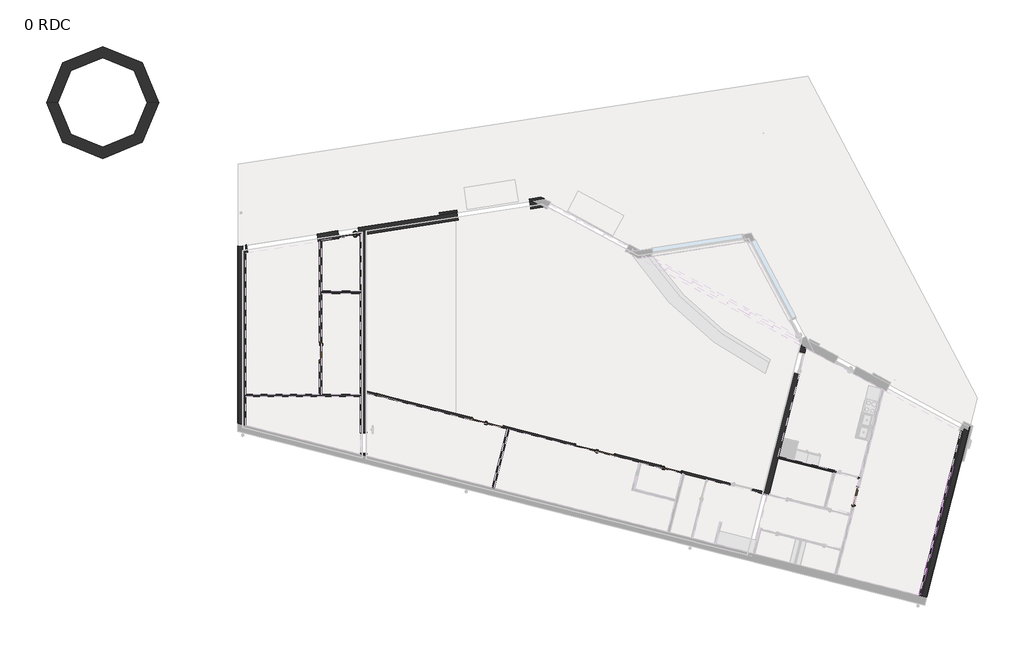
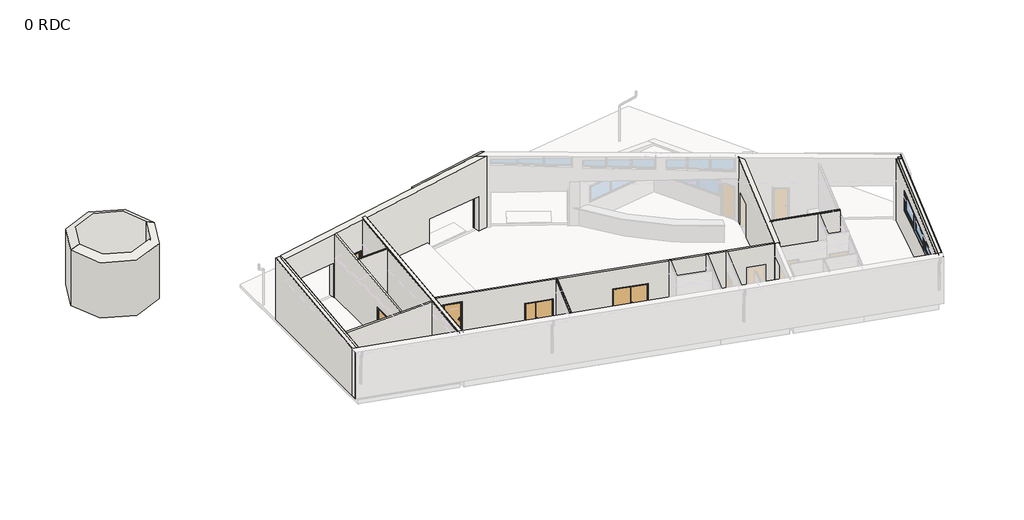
# One storey, part 2 of 4: 15 walls, 8 doors, 3 windows.
"""IFC4 building model written with IfcOpenShell, lengths in millimetres."""

from ifc_helpers import new_model, si_unit, frame, origin, place, context, project, spatial, polyline, circle_curve, outline, extrude, faceted_brep, transform, mapped, element, save
from ifc_brep_helpers import plane_surface, cylinder_surface, revolved_surface, advanced_brep
from components import door_be1b824a, door_0_90m_x_2_04m_119cc7aa, int_double_pp_1_80m_x_2_04m_d59a1f46, int_simple_pp_0_83m_x_2_04m_020da29c, int_simple_pp_0_93m_x_2_04m_e5c7a8a5, ouverture_en_rectangle_191bbca3, pp_1_43m_x_2_04m_4e16e3f7, window_c3426ef7, window_ba02bbd5, window_23208b70

model = new_model("IFC4")

# Units and contexts
model_context = context("Model", 3, world=origin())
ifc_project = project(units=[si_unit("LENGTHUNIT", "METRE", prefix="MILLI")], contexts=[model_context])

# Site, building, storey
site = spatial("IfcSite", under=ifc_project)
building = spatial("IfcBuilding", under=site)
storey = spatial("IfcBuildingStorey", under=building, Name="0 RDC", Elevation=870000.0)

# Doors
placement = place(None, origin())
door_shape = door_be1b824a(model_context)
element("IfcDoor", 1, ObjectType="Porte Ext vitrée : Menuiserie 3", at=placement, inside=storey, context=model_context, shape_type="MappedRepresentation", body=[
    mapped(door_shape, transform((24394.0480904, 10846.8569816, 870000.0), x_axis=(0.9883288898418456, 0.15233517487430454, 0.0), y_axis=(-0.15233517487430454, 0.9883288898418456, 0.0), z_axis=(0.0, 0.0, 1.0))),
])
door_0_90m_x_2_04m_shape = door_0_90m_x_2_04m_119cc7aa(model_context)
element("IfcDoor", 2, ObjectType="Coulissante - Encastrée : 0.90m x 2.04m", at=placement, inside=storey, context=model_context, shape_type="MappedRepresentation", body=[
    mapped(door_0_90m_x_2_04m_shape, transform((47095.9235148, -981.4644465, 869990.0), x_axis=(-0.24594559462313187, -0.9692836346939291, 0.0), y_axis=(0.9692836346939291, -0.24594559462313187, 0.0), z_axis=(0.0, 0.0, 1.0))),
])
int_double_pp_1_80m_x_2_04m_shape = int_double_pp_1_80m_x_2_04m_d59a1f46(model_context)
element("IfcDoor", 3, ObjectType="Int. Double : PP (1.80m x 2.04m)", at=placement, inside=storey, context=model_context, shape_type="MappedRepresentation", body=[
    mapped(int_double_pp_1_80m_x_2_04m_shape, transform((35455.3493143, 1112.8171004, 870000.0), x_axis=(0.9692836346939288, -0.245945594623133, 0.0), y_axis=(0.245945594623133, 0.9692836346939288, 0.0), z_axis=(0.0, 0.0, 1.0))),
])
int_simple_pp_0_83m_x_2_04m_shape = int_simple_pp_0_83m_x_2_04m_020da29c(model_context)
element("IfcDoor", 4, ObjectType="Int. Simple : PP (0.83m x 2.04m)", at=placement, inside=storey, context=model_context, shape_type="MappedRepresentation", body=[
    mapped(int_simple_pp_0_83m_x_2_04m_shape, transform((23135.6644129, 5510.8590745, 870000.0), x_axis=(0.0, -1.0, 0.0), y_axis=(1.0, 0.0, 0.0), z_axis=(0.0, 0.0, 1.0))),
])
int_simple_pp_0_93m_x_2_04m_shape = int_simple_pp_0_93m_x_2_04m_e5c7a8a5(model_context)
element("IfcDoor", 5, ObjectType="Int. Simple : PP (0.93m x 2.04m)", at=placement, inside=storey, context=model_context, shape_type="MappedRepresentation", body=[
    mapped(int_simple_pp_0_93m_x_2_04m_shape, transform((26076.1396291, 3492.6935582, 870750.0), x_axis=(-0.9692836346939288, 0.245945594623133, 0.0), y_axis=(-0.245945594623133, -0.9692836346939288, 0.0), z_axis=(0.0, 0.0, 1.0))),
])
element("IfcDoor", 6, ObjectType="Int. Simple : PP (0.93m x 2.04m)", at=placement, inside=storey, context=model_context, shape_type="MappedRepresentation", body=[
    mapped(int_simple_pp_0_93m_x_2_04m_shape, transform((38886.6133811, 242.1696954, 870000.0), x_axis=(0.9692836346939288, -0.245945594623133, 0.0), y_axis=(0.245945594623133, 0.9692836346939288, 0.0), z_axis=(0.0, 0.0, 1.0))),
])
ouverture_en_rectangle_shape = ouverture_en_rectangle_191bbca3(model_context)
element("IfcDoor", 7, ObjectType="Ouverture en rectangle : Ouverture Loge", at=placement, inside=storey, context=model_context, shape_type="MappedRepresentation", body=[
    mapped(ouverture_en_rectangle_shape, transform((25061.0091129, 1422.3210603, 870000.0), x_axis=(0.0, -1.0, 0.0), y_axis=(1.0, 0.0, 0.0), z_axis=(0.0, 0.0, 1.0))),
])
pp_1_43m_x_2_04m_shape = pp_1_43m_x_2_04m_4e16e3f7(model_context)
element("IfcDoor", 8, ObjectType="Int. Tierce : PP (1.43m x 2.04m)", at=placement, inside=storey, context=model_context, shape_type="MappedRepresentation", body=[
    mapped(pp_1_43m_x_2_04m_shape, transform((30597.8477849, 2345.3573593, 870000.0), x_axis=(-0.9692836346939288, 0.245945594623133, 0.0), y_axis=(-0.245945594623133, -0.9692836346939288, 0.0), z_axis=(0.0, 0.0, 1.0))),
])

# Walls
element("IfcWall", 9, ObjectType="Mur pierre 50 cm", at=placement, inside=storey, context=model_context, shape_type="AdvancedBrep", body=[
    advanced_brep(
    [(11362.7556969, 16699.0276173, 870000.0), (10862.7556969, 16699.0276173, 870000.0), (15885.4429928, 16699.0276173, 870000.0), (15385.4429928, 16699.0276173, 870000.0), (15385.4429928, 16699.0276173, 873725.0), (11362.7556969, 16699.0276173, 873725.0), (15885.4429928, 16699.0276173, 873500.0), (10862.7556969, 16699.0276173, 873500.0)],
    [
        (0, 1),
        (1, 2, circle_curve(frame((13374.0993449, 16699.0276173, 870000.0), z_axis=(0.0, 0.0, -1.0), x_axis=(1.0, 0.0, 0.0)), 2511.343648)),
        (2, 3),
        (3, 0, circle_curve(frame((13374.0993449, 16699.0276173, 870000.0), z_axis=(0.0, 0.0, 1.0), x_axis=(1.0, 0.0, 0.0)), 2011.343648)),
        (4, 5, circle_curve(frame((13374.0993449, 16699.0276173, 873725.0), z_axis=(0.0, 0.0, 1.0), x_axis=(1.0, 0.0, 0.0)), 2011.343648)),
        (5, 0),
        (3, 4),
        (6, 4),
        (2, 6),
        (7, 6, circle_curve(frame((13374.0993449, 16699.0276173, 873500.0), z_axis=(0.0, 0.0, -1.0), x_axis=(1.0, 0.0, 0.0)), 2511.343648)),
        (1, 7),
        (5, 7),
    ],
    [
        plane_surface(frame((15385.4429928, 16699.0276173, 870000.0), z_axis=(0.0, 0.0, -1.0), x_axis=(0.0, 1.0, 0.0))),
        revolved_surface(polyline([(15385.4429929, 16699.0276173, 870000.0), (15385.4429929, 16699.0276173, 873725.0)]), (13374.0993449, 16699.0276173, 870000.0), (0.0, 0.0, -1.0)),
        plane_surface(frame((15385.4429928, 16699.0276173, 872500.0), z_axis=(0.0, -1.0, 0.0), x_axis=(0.0, 0.0, -1.0))),
        cylinder_surface(frame((13374.0993449, 16699.0276173, 870000.0), z_axis=(0.0, 0.0, 1.0), x_axis=(1.0, 0.0, 0.0)), 2511.343648),
        plane_surface(frame((10862.7556969, 16699.0276173, 872500.0), z_axis=(0.0, -1.0, 0.0), x_axis=(0.0, 0.0, -1.0))),
        revolved_surface(polyline([(15385.442992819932, 16699.0276173, 873725.0), (15885.4429928, 16699.0276173, 873500.0)]), (13374.0993449, 16699.0276173, 874630.1046416), (0.0, 0.0, -1.0)),
    ],
    [
        (0, [[1, 2, 3, 4]]),
        (1, [[5, 6, -4, 7]]),
        (2, [[8, -7, -3, 9]]),
        (3, [[10, -9, -2, 11]]),
        (4, [[12, -11, -1, -6]]),
        (5, [[-5, -8, -10, -12]]),
    ],
),
])
element("IfcWall", 10, ObjectType="Mur pierre 50 cm", at=placement, inside=storey, context=model_context, shape_type="AdvancedBrep", body=[
    advanced_brep(
    [(15385.4429928, 16699.0276173, 870000.0), (15885.4429928, 16699.0276173, 870000.0), (10862.7556969, 16699.0276173, 870000.0), (11362.7556969, 16699.0276173, 870000.0), (11362.7556969, 16699.0276173, 873725.0), (15385.4429928, 16699.0276173, 873725.0), (10862.7556969, 16699.0276173, 873500.0), (15885.4429928, 16699.0276173, 873500.0)],
    [
        (0, 1),
        (1, 2, circle_curve(frame((13374.0993449, 16699.0276173, 870000.0), z_axis=(0.0, 0.0, -1.0), x_axis=(1.0, 0.0, 0.0)), 2511.343648)),
        (2, 3),
        (3, 0, circle_curve(frame((13374.0993449, 16699.0276173, 870000.0), z_axis=(0.0, 0.0, 1.0), x_axis=(1.0, 0.0, 0.0)), 2011.343648)),
        (4, 5, circle_curve(frame((13374.0993449, 16699.0276173, 873725.0), z_axis=(0.0, 0.0, 1.0), x_axis=(1.0, 0.0, 0.0)), 2011.343648)),
        (5, 0),
        (3, 4),
        (6, 4),
        (2, 6),
        (7, 6, circle_curve(frame((13374.0993449, 16699.0276173, 873500.0), z_axis=(0.0, 0.0, -1.0), x_axis=(1.0, 0.0, 0.0)), 2511.343648)),
        (1, 7),
        (5, 7),
    ],
    [
        plane_surface(frame((15385.4429928, 16699.0276173, 870000.0), z_axis=(0.0, 0.0, -1.0), x_axis=(0.0, 1.0, 0.0))),
        revolved_surface(polyline([(15385.4429929, 16699.0276173, 870000.0), (15385.4429929, 16699.0276173, 873725.0)]), (13374.0993449, 16699.0276173, 870000.0), (0.0, 0.0, -1.0)),
        plane_surface(frame((11362.7556969, 16699.0276173, 872500.0), z_axis=(0.0, 1.0, 0.0), x_axis=(0.0, 0.0, -1.0))),
        cylinder_surface(frame((13374.0993449, 16699.0276173, 870000.0), z_axis=(0.0, 0.0, 1.0), x_axis=(1.0, 0.0, 0.0)), 2511.343648),
        plane_surface(frame((15885.4429928, 16699.0276173, 872500.0), z_axis=(0.0, 1.0, 0.0), x_axis=(0.0, 0.0, -1.0))),
        revolved_surface(polyline([(11362.75569689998, 16699.0276173, 873725.0), (10862.7556969, 16699.0276173, 873500.0)]), (13374.0993449, 16699.0276173, 874630.1046416), (0.0, 0.0, -1.0)),
    ],
    [
        (0, [[1, 2, 3, 4]]),
        (1, [[5, 6, -4, 7]]),
        (2, [[8, -7, -3, 9]]),
        (3, [[10, -9, -2, 11]]),
        (4, [[12, -11, -1, -6]]),
        (5, [[-5, -8, -10, -12]]),
    ],
),
])
element("IfcWall", 11, ObjectType="Cloison de séparation", at=placement, inside=storey, context=model_context, shape_type="Brep", body=[
    faceted_brep([(23086.6644129, 3610.3210603, 873237.2007405), (23086.6644129, 10466.2544059, 874034.6420196), (23086.6644129, 10466.2544059, 870000.0), (23086.6644129, 5995.8590745, 870000.0), (23086.6644129, 5995.8590745, 872075.0), (23086.6644129, 5095.8590745, 872075.0), (23086.6644129, 5095.8590745, 870000.0), (23086.6644129, 3610.3210603, 870000.0), (23184.6644129, 10481.3595468, 874039.2912797), (23184.6644129, 8243.3256655, 873778.9765258), (23184.6644129, 8145.3256655, 873767.5777503), (23184.6644129, 3610.3210603, 873240.0930606), (23184.6644129, 3610.3210603, 870000.0), (23184.6644129, 5095.8590745, 870000.0), (23184.6644129, 5095.8590745, 872075.0), (23184.6644129, 5995.8590745, 872075.0), (23184.6644129, 5995.8590745, 870000.0), (23184.6644129, 8145.3256655, 870000.0), (23184.6644129, 8243.3256655, 870000.0), (23184.6644129, 10481.3595468, 870000.0)], [[[0, 1, 2, 3, 4, 5, 6, 7]], [[8, 9, 10, 11, 12, 13, 14, 15, 16, 17, 18, 19]], [[5, 14, 13, 6]], [[14, 5, 4, 15]], [[15, 4, 3, 16]], [[12, 7, 6, 13]], [[2, 19, 18, 17, 16, 3]], [[1, 0, 11, 10, 9, 8]], [[0, 7, 12, 11]], [[2, 1, 8, 19]]]),
])
element("IfcWall", 12, ObjectType="Cloison de séparation", at=placement, inside=storey, context=model_context, shape_type="Brep", body=[
    faceted_brep([(31529.6636013, 2084.1582778, 869990.0), (30852.5138613, -584.5220139, 869990.0), (30852.5138613, -584.5220139, 872978.4787867), (31529.6636013, 2084.1582778, 873308.8688021), (31576.1892158, 2072.3528893, 869990.0), (30899.0481554, -596.2931956, 869990.0), (30899.0481554, -596.2931956, 872978.4830216), (31576.1892158, 2072.3528893, 873308.8688021)], [[[0, 1, 2, 3]], [[1, 0, 4, 5]], [[3, 2, 6, 7]], [[5, 4, 7, 6]], [[7, 4, 0, 3]], [[1, 5, 6, 2]]]),
    faceted_brep([(30831.4745434, -565.7904995, 869990.0), (31505.4315104, 2090.3069177, 869990.0), (31529.6636013, 2084.1582778, 869990.0), (30855.7111549, -571.9213233, 869990.0), (30855.7111549, -571.9213233, 872980.0387871), (30831.4745434, -565.7904995, 872980.0365814), (31529.6636013, 2084.1582778, 873308.8688021), (31505.4315104, 2090.3069177, 873308.8688021)], [[[0, 1, 2, 3]], [[0, 3, 4, 5]], [[5, 4, 6, 7]], [[2, 1, 7, 6]], [[7, 1, 0, 5]], [[3, 2, 6, 4]]]),
    faceted_brep([(31576.1892158, 2072.3528893, 869990.0), (30902.245449, -583.6925049, 869990.0), (30902.245449, -583.6925049, 872980.043022), (31576.1892158, 2072.3528893, 873308.8688021), (31600.4213066, 2066.2042494, 869990.0), (30926.4820605, -589.8233287, 869990.0), (30926.4820605, -589.8233287, 872980.0452277), (31600.4213066, 2066.2042494, 873308.8688021)], [[[0, 1, 2, 3]], [[1, 0, 4, 5]], [[2, 1, 5, 6]], [[3, 2, 6, 7]], [[0, 3, 7, 4]], [[4, 7, 6, 5]]]),
])
element("IfcWall", 13, ObjectType="Cloison de séparation", at=placement, inside=storey, context=model_context, shape_type="Brep", body=[
    faceted_brep([(24925.5091129, 8145.3256655, 869990.0), (23184.6644129, 8145.3256655, 869990.0), (23184.6644129, 8170.3256655, 869990.0), (24925.5091129, 8170.3256655, 869990.0), (24925.5091129, 8170.3256655, 873821.8639714), (24925.5091129, 8145.3256655, 873818.9561205), (23184.6644129, 8145.3256655, 873767.5777503), (23184.6644129, 8170.3256655, 873770.4856012)], [[[0, 1, 2, 3]], [[0, 3, 4, 5]], [[2, 1, 6, 7]], [[6, 1, 0, 5]], [[4, 3, 2, 7]], [[6, 5, 4, 7]]]),
    faceted_brep([(23184.6644129, 8218.3256655, 870000.0), (24925.5091129, 8218.3256655, 870000.0), (24925.5091129, 8218.3256655, 873000.0), (24925.5091129, 8218.3256655, 873827.4470451), (23184.6644129, 8218.3256655, 873776.0686749), (23184.6644129, 8218.3256655, 873000.0), (23184.6644129, 8243.3256655, 870000.0), (24925.5091129, 8243.3256655, 870000.0), (24925.5091129, 8243.3256655, 873000.0), (24925.5091129, 8243.3256655, 873830.354896), (23184.6644129, 8243.3256655, 873778.9765258), (23184.6644129, 8243.3256655, 873000.0)], [[[0, 1, 2, 3, 4, 5]], [[1, 0, 6, 7]], [[2, 1, 7, 8, 9, 3]], [[0, 5, 4, 10, 11, 6]], [[6, 11, 10, 9, 8, 7]], [[4, 3, 9, 10]]]),
    faceted_brep([(23159.4085208, 8218.3256655, 873000.0), (23159.4085208, 8170.3256655, 873000.0), (23159.6644129, 8170.3256655, 873000.0), (23159.6644129, 8218.3256655, 873000.0), (23159.4085208, 8170.3256655, 870000.0), (24983.5091129, 8170.3256655, 870000.0), (24983.5091129, 8170.3256655, 873823.5757527), (23159.6644129, 8170.3256655, 873769.7477644), (23159.4085208, 8218.3256655, 870000.0), (24983.5091129, 8218.3256655, 870000.0), (23159.6644129, 8218.3256655, 873775.3308382), (24983.5091129, 8218.3256655, 873829.1588265)], [[[0, 1, 2, 3]], [[4, 5, 6, 7, 2, 1]], [[5, 4, 8, 9]], [[9, 8, 0, 3, 10, 11]], [[8, 4, 1, 0]], [[6, 5, 9, 11]], [[7, 6, 11, 10]], [[2, 7, 10, 3]]]),
])
element("IfcWall", 14, ObjectType="Cloison de séparation", at=placement, inside=storey, context=model_context, shape_type="SolidModel", body=[
    faceted_brep([(47292.0084418, -163.5628189, 873157.9788522), (47303.8138304, -117.0372045, 873157.9788522), (47279.5817395, -110.8885646, 873157.9788522), (47267.776351, -157.4141791, 873157.9788522), (47207.6807656, -142.1655522, 870000.0), (47292.0084418, -163.5628189, 870000.0), (47267.776351, -157.4141791, 873512.6288021), (43580.2623132, 778.2539785, 873512.6288021), (43580.2623132, 778.2539785, 869990.0), (46238.3971309, 103.7800424, 869990.0), (46238.3971309, 103.7800424, 872075.0), (47207.6807656, -142.1655522, 872075.0), (47219.4861541, -95.6399377, 870000.0), (47303.8138304, -117.0372045, 870000.0), (43592.0677018, 824.779593, 869990.0), (46250.2025195, 150.3056569, 869990.0), (46250.2025195, 150.3056569, 872075.0), (47219.4861541, -95.6399377, 872075.0), (43592.0677018, 824.779593, 873518.3888021), (47279.5817395, -110.8885646, 873518.3888021)], [[[0, 1, 2, 3]], [[4, 5, 0, 3, 6, 7, 8, 9, 10, 11]], [[5, 4, 12, 13]], [[14, 15, 9, 8]], [[10, 9, 15, 16]], [[11, 10, 16, 17]], [[4, 11, 17, 12]], [[15, 14, 18, 19, 2, 1, 13, 12, 17, 16]], [[6, 3, 2, 19]], [[7, 6, 19, 18]], [[18, 14, 8, 7]], [[5, 13, 1, 0]]]),
    extrude(outline(polyline([(3.1750001, 3814.4288021), (3.1750001, 294.8), (-21.825, 294.8), (-21.825, 3817.4288021), (3.1750001, 3814.4288021)])), frame((46123.5003176, 110.4172793, 869695.2), z_axis=(-0.9692836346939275, 0.24594559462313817, 0.0), x_axis=(-0.24594559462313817, -0.9692836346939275, 0.0)), (0.0, 0.0, 1.0), 2571.3704709),
    faceted_brep([(47267.776351, -157.4141791, 869990.0), (47261.6277111, -181.6462699, 869990.0), (47201.5321257, -166.3976431, 869990.0), (47207.6807656, -142.1655522, 869990.0), (47267.776351, -157.4141791, 873512.6288021), (47261.6277111, -181.6462699, 873509.6288021), (46232.248491, 79.5479515, 869990.0), (46238.3971309, 103.7800424, 869990.0), (46238.3971309, 103.7800424, 872075.0), (46232.248491, 79.5479515, 872075.0), (47207.6807656, -142.1655522, 872075.0), (47201.5321257, -166.3976431, 872075.0), (46169.2450548, 95.5344152, 873509.6288021), (46175.3936947, 119.7665061, 873512.6288021), (46175.3936947, 119.7665061, 869990.0), (46169.2450548, 95.5344152, 869990.0)], [[[0, 1, 2, 3]], [[1, 0, 4, 5]], [[6, 7, 8, 9]], [[10, 11, 9, 8]], [[2, 11, 10, 3]], [[12, 5, 4, 13]], [[4, 0, 3, 10, 8, 7, 14, 13]], [[6, 9, 11, 2, 1, 5, 12, 15]], [[7, 6, 15, 14]], [[13, 14, 15, 12]]]),
    faceted_brep([(47219.4861541, -95.6399377, 870000.0), (47279.5817395, -110.8885646, 870000.0), (47279.5817395, -110.8885646, 873518.3888021), (43648.2861526, 810.5147485, 873518.3888021), (43648.2861526, 810.5147485, 869990.0), (46250.2025195, 150.3056569, 869990.0), (46250.2025195, 150.3056569, 872075.0), (47219.4861541, -95.6399377, 872075.0), (47225.634794, -71.4078469, 870000.0), (47285.7303794, -86.6564737, 870000.0), (47285.7303794, -86.6564737, 873521.3888021), (43654.4347925, 834.7468394, 873521.3888021), (43654.4347925, 834.7468394, 869990.0), (46256.3511593, 174.5377477, 869990.0), (46256.3511593, 174.5377477, 872075.0), (47225.634794, -71.4078469, 872075.0)], [[[0, 1, 2, 3, 4, 5, 6, 7]], [[1, 0, 8, 9]], [[2, 1, 9, 10]], [[4, 3, 11, 12]], [[5, 4, 12, 13]], [[6, 5, 13, 14]], [[7, 6, 14, 15]], [[0, 7, 15, 8]], [[9, 8, 15, 14, 13, 12, 11, 10]], [[3, 2, 10, 11]]]),
])
element("IfcWall", 15, ObjectType="Cloison de séparation", at=placement, inside=storey, context=model_context, shape_type="Brep", body=[
    faceted_brep([(25196.5091129, 3766.443409, 873317.6288021), (42974.1433078, -744.4455162, 873317.6288021), (42974.1433078, -744.4455162, 870000.0), (42485.0141636, -620.3341066, 870000.0), (42485.0141636, -620.3341066, 872075.0), (41515.7305289, -374.3885119, 872075.0), (41515.7305289, -374.3885119, 870000.0), (39349.3816054, 175.299892, 870000.0), (39349.3816054, 175.299892, 872075.0), (38380.0979707, 421.2454867, 872075.0), (38380.0979707, 421.2454867, 870000.0), (36339.7559196, 938.9609633, 870000.0), (36339.7559196, 938.9609633, 872075.0), (34527.1955228, 1398.8792253, 872075.0), (34527.1955228, 1398.8792253, 870000.0), (31370.7867723, 2199.7849656, 870000.0), (31370.7867723, 2199.7849656, 872075.0), (29916.8613202, 2568.7033575, 872075.0), (29916.8613202, 2568.7033575, 870000.0), (29200.6644129, 2750.4308395, 870000.0), (29130.6644129, 2768.1926081, 870000.0), (25196.5091129, 3766.443409, 870000.0), (25637.4740731, 3654.5531578, 870750.0), (26606.7577078, 3408.6075632, 870750.0), (26606.7577078, 3408.6075632, 872825.0), (25637.4740731, 3654.5531578, 872825.0), (42950.0406395, -839.4353124, 873305.8688021), (40483.5728806, -213.5948897, 873305.8688021), (40413.7844589, -195.8868069, 873305.8688021), (39445.4701078, 49.8128421, 873305.8688021), (39350.4803116, 73.9155104, 873305.8688021), (37507.872122, 541.4580858, 873305.8688021), (37412.8823258, 565.560754, 873305.8688021), (31594.2726668, 2041.9721585, 873305.8688021), (31499.2828706, 2066.0748268, 873305.8688021), (25196.5091129, 3665.3378125, 873305.8688021), (25196.5091129, 3665.3378125, 870000.0), (29892.758652, 2473.7135613, 870000.0), (29892.758652, 2473.7135613, 872075.0), (31346.684104, 2104.7951694, 872075.0), (31346.684104, 2104.7951694, 870000.0), (31499.2828706, 2066.0748268, 870000.0), (31594.2726668, 2041.9721585, 870000.0), (34503.0928545, 1303.8894291, 870000.0), (34503.0928545, 1303.8894291, 872075.0), (36315.6532514, 843.9711671, 872075.0), (36315.6532514, 843.9711671, 870000.0), (37412.8823258, 565.560754, 870000.0), (37507.872122, 541.4580858, 870000.0), (38355.9953024, 326.2556905, 870000.0), (38355.9953024, 326.2556905, 872075.0), (39325.2789371, 80.3100958, 872075.0), (39325.2789371, 80.3100958, 870000.0), (39350.4803116, 73.9155104, 870000.0), (39445.4701078, 49.8128421, 870000.0), (40413.7844589, -195.8868069, 870000.0), (40483.5728806, -213.5948897, 870000.0), (41491.6278606, -469.3783081, 870000.0), (41491.6278606, -469.3783081, 872075.0), (42460.9114953, -715.3239028, 872075.0), (42460.9114953, -715.3239028, 870000.0), (42950.0406395, -839.4353124, 870000.0), (25613.3714048, 3559.5633616, 870750.0), (25613.3714048, 3559.5633616, 872825.0), (26582.6550395, 3313.617767, 872825.0), (26582.6550395, 3313.617767, 870750.0)], [[[0, 1, 2, 3, 4, 5, 6, 7, 8, 9, 10, 11, 12, 13, 14, 15, 16, 17, 18, 19, 20, 21], [22, 23, 24, 25]], [[26, 27, 28, 29, 30, 31, 32, 33, 34, 35, 36, 37, 38, 39, 40, 41, 42, 43, 44, 45, 46, 47, 48, 49, 50, 51, 52, 53, 54, 55, 56, 57, 58, 59, 60, 61], [62, 63, 64, 65]], [[46, 11, 10, 49, 48, 47]], [[14, 43, 42, 41, 40, 15]], [[18, 37, 36, 21, 20, 19]], [[60, 3, 2, 61]], [[6, 57, 56, 55, 54, 53, 52, 7]], [[1, 0, 35, 34, 33, 32, 31, 30, 29, 28, 27, 26]], [[62, 65, 23, 22]], [[65, 64, 24, 23]], [[64, 63, 25, 24]], [[63, 62, 22, 25]], [[45, 12, 11, 46]], [[12, 45, 44, 13]], [[13, 44, 43, 14]], [[17, 38, 37, 18]], [[38, 17, 16, 39]], [[39, 16, 15, 40]], [[4, 3, 60, 59]], [[5, 4, 59, 58]], [[6, 5, 58, 57]], [[51, 8, 7, 52]], [[8, 51, 50, 9]], [[9, 50, 49, 10]], [[0, 21, 36, 35]], [[61, 2, 1, 26]]]),
])
element("IfcWall", 16, ObjectType="Int. Plâtre 7cm", at=placement, inside=storey, context=model_context, shape_type="SweptSolid", body=[
    extrude(outline(polyline([(29130.6644129, 2768.1926081), (29130.6644129, 11397.8408508), (29200.6644129, 11408.6302372), (29200.6644129, 2750.4308395), (29130.6644129, 2768.1926081)])), frame((0.0, 0.0, 870000.0), z_axis=(0.0, 0.0, 1.0), x_axis=(1.0, 0.0, 0.0)), (0.0, 0.0, 1.0), 700.0),
])
element("IfcWall", 17, ObjectType="Cloison de séparation", at=placement, inside=storey, context=model_context, shape_type="Brep", body=[
    faceted_brep([(24925.5091129, 3610.3210603, 870000.0), (23184.6644129, 3610.3210603, 870000.0), (23086.6644129, 3610.3210603, 870000.0), (19784.6644129, 3610.3210603, 870000.0), (19784.6644129, 3610.3210603, 873139.747258), (23086.6644129, 3610.3210603, 873237.2007405), (23184.6644129, 3610.3210603, 873240.0930606), (24925.5091129, 3610.3210603, 873291.4714308), (24925.5091129, 3512.3210603, 870000.0), (24925.5091129, 3512.3210603, 873280.0726553), (19784.6644129, 3512.3210603, 873128.3484825), (19784.6644129, 3512.3210603, 870000.0)], [[[0, 1, 2, 3, 4, 5, 6, 7]], [[8, 9, 10, 11]], [[3, 2, 1, 0, 8, 11]], [[7, 6, 5, 4, 10, 9]], [[4, 3, 11, 10]], [[0, 7, 9, 8]]]),
])
element("IfcWall", 18, ObjectType="Mur exterieur doublé", at=placement, inside=storey, context=model_context, shape_type="Brep", body=[
    faceted_brep([(19451.6644129, 10264.1573482, 870000.0), (19451.6644129, 1969.3249458, 870000.0), (19430.6644129, 1974.6370456, 870000.0), (19430.6644129, 10260.9205323, 870000.0), (19451.6644129, 1969.3249458, 872939.0483907), (19451.6644129, 2493.3512055, 873000.0), (19451.6644129, 10264.1573482, 873903.8538267), (19430.6644129, 10260.9205323, 873902.8575567), (19430.6644129, 2498.6797361, 873000.0), (19430.6644129, 1974.6370456, 872939.0464795), (19451.6644129, 10264.1573482, 873000.0), (19430.6644129, 10260.9205323, 873000.0)], [[[0, 1, 2, 3]], [[4, 5, 6, 7, 8, 9]], [[1, 0, 10, 6, 5, 4]], [[3, 2, 9, 8, 7, 11]], [[9, 2, 1, 4]], [[10, 0, 3, 11, 7, 6]]]),
    faceted_brep([(19651.6644129, 2125.0330403, 870000.0), (19651.6644129, 10273.7361788, 870000.0), (19651.6644129, 10273.7361788, 873000.0), (19651.6644129, 10273.7361788, 873910.8706734), (19651.6644129, 2442.6032952, 873000.0), (19651.6644129, 2125.0330403, 872963.0621219), (19451.6644129, 2175.624467, 870000.0), (19451.6644129, 10242.9093606, 870000.0), (19451.6644129, 10242.9093606, 873901.3823875), (19451.6644129, 2493.3512055, 873000.0), (19451.6644129, 2175.624467, 872963.0439206), (19451.6644129, 10242.9093606, 873000.0)], [[[0, 1, 2, 3, 4, 5]], [[1, 0, 6, 7]], [[5, 4, 3, 8, 9, 10]], [[7, 6, 10, 9, 8, 11]], [[6, 0, 5, 10]], [[1, 7, 11, 8, 3, 2]]]),
    faceted_brep([(19784.6644129, 2228.5789232, 869990.0), (19771.6644129, 2231.8673659, 869990.0), (19771.6644129, 3537.3210603, 869990.0), (19784.6644129, 3537.3210603, 869990.0), (19771.6644129, 2231.8673659, 872979.0300701), (19784.6644129, 2228.5789232, 872979.0312531), (19771.6644129, 3537.3210603, 873130.8726583), (19784.6644129, 3537.3210603, 873131.2563334)], [[[0, 1, 2, 3]], [[4, 1, 0, 5]], [[6, 4, 5, 7]], [[1, 4, 6, 2]], [[0, 3, 7, 5]], [[2, 6, 7, 3]]]),
    faceted_brep([(19651.6644129, 10071.3743921, 869990.0), (19651.6644129, 2248.812753, 869990.0), (19651.6644129, 2248.812753, 872977.4594399), (19651.6644129, 10071.3743921, 873887.3331572), (19771.6644129, 10089.870483, 869990.0), (19771.6644129, 2218.457897, 869990.0), (19771.6644129, 2218.457897, 872977.4703606), (19771.6644129, 10089.870483, 873893.0261288)], [[[0, 1, 2, 3]], [[1, 0, 4, 5]], [[3, 2, 6, 7]], [[5, 4, 7, 6]], [[1, 5, 6, 2]], [[7, 4, 0, 3]]]),
    faceted_brep([(19771.6644129, 9968.4534109, 873878.9036191), (19771.6644129, 3585.3210603, 873136.455732), (19784.6644129, 3585.3210603, 873136.8394071), (19784.6644129, 9970.4571541, 873879.5203577), (19771.6644129, 3585.3210603, 869990.0), (19784.6644129, 3585.3210603, 869990.0), (19784.6644129, 9970.4571541, 869990.0), (19771.6644129, 9968.4534109, 869990.0)], [[[0, 1, 2, 3]], [[4, 5, 2, 1]], [[2, 5, 6, 3]], [[7, 4, 1, 0]], [[6, 5, 4, 7]], [[3, 6, 7, 0]]]),
])
element("IfcWall", 19, ObjectType="Int. Voile BA 20 doublé", at=placement, inside=storey, context=model_context, shape_type="Brep", body=[
    faceted_brep([(44848.0632907, 5538.8952143, 874103.7754068), (43654.4347925, 834.7468394, 873521.3888021), (43630.3321242, 739.7570432, 873509.6288021), (43212.7165045, -906.0865685, 873305.8688021), (43212.7165045, -906.0865685, 873000.0), (43212.7165045, -906.0865685, 870000.0), (43230.4245873, -836.2981468, 870000.0), (43630.3321242, 739.7570432, 870000.0), (43654.4347925, 834.7468394, 870000.0), (44584.1091401, 4498.6389785, 870000.0), (44584.1091401, 4498.6389785, 872075.0), (44830.0547347, 5467.9226132, 872075.0), (44830.0547347, 5467.9226132, 870000.0), (44884.524727, 5682.5915206, 870000.0), (44884.524727, 5682.5915206, 872910.0), (44848.0632907, 5538.8952143, 872910.0), (44848.0632907, 5538.8952143, 873067.8581605), (42950.0406395, -839.4353124, 873305.8688021), (42974.1433078, -744.4455162, 873317.6288021), (44658.7963366, 5894.8545839, 874139.5925529), (44658.7963366, 5894.8545839, 870000.0), (44567.3788697, 5534.5738694, 870000.0), (44567.3788697, 5534.5738694, 872075.0), (44321.4332751, 4565.2902347, 872075.0), (44321.4332751, 4565.2902347, 870000.0), (42974.1433078, -744.4455162, 870000.0), (42950.0406395, -839.4353124, 870000.0), (44726.5482831, 5767.4317051, 870000.0), (42962.6590905, -842.6371125, 873305.8688021), (43156.5158698, -891.8262447, 873305.8688021), (44726.5482831, 5767.4317051, 872910.0), (44726.5482831, 5767.4317051, 872802.1169899)], [[[0, 1, 2, 3, 4, 5, 6, 7, 8, 9, 10, 11, 12, 13, 14, 15, 16]], [[17, 18, 19, 20, 21, 22, 23, 24, 25, 26]], [[5, 26, 25, 24, 9, 8, 7, 6]], [[20, 27, 13, 12, 21]], [[11, 22, 21, 12]], [[22, 11, 10, 23]], [[23, 10, 9, 24]], [[3, 2, 1, 0, 19, 18, 17, 28, 29]], [[26, 5, 4, 3, 29, 28, 17]], [[15, 14, 30]], [[13, 27, 31, 30, 14]], [[19, 0, 16, 15, 30, 31, 27, 20]]]),
])
element("IfcWall", 20, ObjectType="Int. Voile BA 20 doublé", at=placement, inside=storey, context=model_context, shape_type="Brep", body=[
    faceted_brep([(24925.5091129, 8243.3256655, 870000.0), (24925.5091129, 10749.6830619, 870000.0), (24938.5091129, 10751.6868051, 870000.0), (24938.5091129, 8218.3256655, 870000.0), (24925.5091129, 8218.3256655, 870000.0), (24938.5091129, 10751.6868051, 873000.0), (24938.5091129, 10751.6868051, 874122.4961795), (24938.5091129, 8218.3256655, 873827.8307203), (24938.5091129, 8218.3256655, 873000.0), (24925.5091129, 8218.3256655, 873000.0), (24925.5091129, 8218.3256655, 873827.4470451), (24925.5091129, 8243.3256655, 873830.354896), (24925.5091129, 10749.6830619, 874121.8794409), (24925.5091129, 10749.6830619, 873000.0)], [[[0, 1, 2, 3, 4]], [[2, 5, 6, 7, 8, 3]], [[1, 0, 4, 9, 10, 11, 12, 13]], [[12, 11, 10, 7, 6]], [[2, 1, 13, 12, 6, 5]], [[9, 4, 3, 8, 7, 10]]]),
    faceted_brep([(24938.5091129, 10764.8403212, 870000.0), (24983.5091129, 10771.7763553, 870000.0), (24983.5091129, 8218.3256655, 870000.0), (24938.5091129, 8218.3256655, 870000.0), (24983.5091129, 10771.7763553, 873000.0), (24983.5091129, 10771.7763553, 874126.1609823), (24983.5091129, 8218.3256655, 873829.1588265), (24983.5091129, 8218.3256655, 873000.0), (24938.5091129, 10764.8403212, 873000.0), (24938.5091129, 8218.3256655, 873000.0), (24938.5091129, 8218.3256655, 873827.8307203), (24938.5091129, 10764.8403212, 874124.026118)], [[[0, 1, 2, 3]], [[1, 4, 5, 6, 7, 2]], [[8, 0, 3, 9, 10, 11]], [[6, 5, 11, 10]], [[1, 0, 8, 11, 5, 4]], [[3, 2, 7, 6, 10, 9]]]),
    faceted_brep([(24983.5091129, 947.3210603, 870000.0), (24983.5091129, 776.3048898, 870000.0), (24983.5091129, 776.3048898, 872963.5473528), (24983.5091129, 10893.1934273, 874140.2834921), (24983.5091129, 10893.1934273, 869990.0), (24983.5091129, 1897.3210603, 869990.0), (24983.5091129, 1897.3210603, 872100.0), (24983.5091129, 947.3210603, 872100.0), (25183.5091129, 10924.0202455, 869990.0), (25183.5091129, 1897.3210603, 869990.0), (25183.5091129, 1897.3210603, 872100.0), (25183.5091129, 947.3210603, 872100.0), (25183.5091129, 947.3210603, 870000.0), (25183.5091129, 725.7134632, 870000.0), (25183.5091129, 725.7134632, 872963.5655541), (25183.5091129, 10924.0202455, 874149.771778)], [[[0, 1, 2, 3, 4, 5, 6, 7]], [[5, 4, 8, 9]], [[6, 5, 9, 10]], [[7, 6, 10, 11]], [[0, 7, 11, 12]], [[1, 0, 12, 13]], [[3, 2, 14, 15]], [[9, 8, 15, 14, 13, 12, 11, 10]], [[15, 8, 4, 3]], [[1, 13, 14, 2]]]),
    faceted_brep([(24925.5091129, 1897.3210603, 870000.0), (24938.5091129, 1897.3210603, 870000.0), (24938.5091129, 1897.3210603, 872100.0), (24925.5091129, 1897.3210603, 872100.0), (24938.5091129, 947.3210603, 872100.0), (24925.5091129, 947.3210603, 872100.0), (24925.5091129, 947.3210603, 870000.0), (24938.5091129, 947.3210603, 870000.0), (24938.5091129, 924.8771424, 870000.0), (24925.5091129, 928.1655852, 870000.0), (24938.5091129, 924.8771424, 872979.500285), (24925.5091129, 928.1655852, 872979.4991019), (24925.5091129, 1104.420307, 873000.0), (24938.5091129, 1101.1216928, 873000.0), (24938.5091129, 3537.3210603, 873283.3641813), (24925.5091129, 3537.3210603, 873282.9805062), (24925.5091129, 3512.3210603, 873280.0726553), (24925.5091129, 3512.3210603, 870000.0), (24925.5091129, 3537.3210603, 873000.0), (24925.5091129, 3537.3210603, 870000.0), (24938.5091129, 3537.3210603, 870000.0), (24938.5091129, 3537.3210603, 873000.0)], [[[0, 1, 2, 3]], [[4, 5, 3, 2]], [[6, 5, 4, 7]], [[8, 9, 6, 7]], [[10, 11, 9, 8]], [[12, 11, 10, 13, 14, 15, 16]], [[17, 0, 3, 5, 6, 9, 11, 12, 16, 15, 18, 19]], [[13, 10, 8, 7, 4, 2, 1, 20, 21, 14]], [[1, 0, 17, 19, 20]], [[19, 18, 15, 14, 21, 20]]]),
    faceted_brep([(24938.5091129, 1897.3210603, 870000.0), (24983.5091129, 1897.3210603, 870000.0), (24983.5091129, 1897.3210603, 872100.0), (24938.5091129, 1897.3210603, 872100.0), (24983.5091129, 947.3210603, 872100.0), (24938.5091129, 947.3210603, 872100.0), (24983.5091129, 947.3210603, 870000.0), (24938.5091129, 947.3210603, 870000.0), (24983.5091129, 900.0846025, 870000.0), (24938.5091129, 911.4676735, 870000.0), (24983.5091129, 900.0846025, 872977.9446708), (24983.5091129, 1089.703413, 873000.0), (24983.5091129, 3537.3210603, 873284.6922875), (24938.5091129, 3537.3210603, 873283.3641813), (24938.5091129, 1101.1216928, 873000.0), (24938.5091129, 911.4676735, 872977.9405755), (24938.5091129, 3537.3210603, 873000.0), (24938.5091129, 3537.3210603, 870000.0), (24983.5091129, 3537.3210603, 870000.0), (24983.5091129, 3537.3210603, 873000.0)], [[[0, 1, 2, 3]], [[4, 5, 3, 2]], [[6, 7, 5, 4]], [[7, 6, 8, 9]], [[10, 11, 12, 13, 14, 15]], [[15, 14, 13, 16, 17, 0, 3, 5, 7, 9]], [[11, 10, 8, 6, 4, 2, 1, 18, 19, 12]], [[1, 0, 17, 18]], [[9, 8, 10, 15]], [[18, 17, 16, 13, 12, 19]]]),
    faceted_brep([(24925.5091129, 8170.3256655, 873821.8639714), (24925.5091129, 3585.3210603, 873288.5635799), (24938.5091129, 3585.3210603, 873288.9472551), (24938.5091129, 8170.3256655, 873822.2476465), (24925.5091129, 8170.3256655, 869990.0), (24925.5091129, 3585.3210603, 869990.0), (24938.5091129, 3585.3210603, 869990.0), (24938.5091129, 8170.3256655, 869990.0)], [[[0, 1, 2, 3]], [[4, 5, 1, 0]], [[6, 7, 3, 2]], [[5, 4, 7, 6]], [[1, 5, 6, 2]], [[4, 0, 3, 7]]]),
    faceted_brep([(24983.5091129, 3585.3210603, 873290.2753613), (24983.5091129, 8170.3256655, 873823.5757527), (24938.5091129, 8170.3256655, 873822.2476465), (24938.5091129, 3585.3210603, 873288.9472551), (24938.5091129, 8170.3256655, 869990.0), (24938.5091129, 3585.3210603, 869990.0), (24983.5091129, 3585.3210603, 869990.0), (24983.5091129, 8170.3256655, 869990.0)], [[[0, 1, 2, 3]], [[3, 2, 4, 5]], [[6, 7, 1, 0]], [[6, 5, 4, 7]], [[3, 5, 6, 0]], [[1, 7, 4, 2]]]),
    faceted_brep([(25196.5091129, 1897.3210603, 870000.0), (25196.5091129, 1897.3210603, 872100.0), (25183.5091129, 1897.3210603, 872100.0), (25183.5091129, 1897.3210603, 870000.0), (25196.5091129, 947.3210603, 872100.0), (25183.5091129, 947.3210603, 872100.0), (25196.5091129, 947.3210603, 870000.0), (25183.5091129, 947.3210603, 870000.0), (25196.5091129, 859.614202, 870000.0), (25183.5091129, 862.9026448, 870000.0), (25196.5091129, 859.614202, 872979.5237646), (25183.5091129, 862.9026448, 872979.5225815), (25196.5091129, 1035.6568886, 873000.0), (25196.5091129, 3665.3378125, 873305.8688021), (25196.5091129, 3691.1300565, 873308.8688021), (25183.5091129, 3694.4286707, 873308.8688021), (25183.5091129, 1038.9555027, 873000.0), (25196.5091129, 3665.3378125, 870000.0), (25196.5091129, 3691.1300565, 870000.0), (25196.5091129, 3691.1300565, 873000.0), (25183.5091129, 3694.4286707, 873000.0), (25183.5091129, 3694.4286707, 870000.0)], [[[0, 1, 2, 3]], [[1, 4, 5, 2]], [[4, 6, 7, 5]], [[6, 8, 9, 7]], [[8, 10, 11, 9]], [[10, 12, 13, 14, 15, 16, 11]], [[12, 10, 8, 6, 4, 1, 0, 17, 18, 19, 14, 13]], [[11, 16, 15, 20, 21, 3, 2, 5, 7, 9]], [[17, 0, 3, 21, 18]], [[18, 21, 20, 15, 14, 19]]]),
    faceted_brep([(25196.5091129, 3740.651165, 869990.0), (25183.5091129, 3743.9497791, 869990.0), (25183.5091129, 10789.4496573, 869990.0), (25196.5091129, 10791.4534005, 869990.0), (25183.5091129, 3743.9497791, 873314.6288021), (25183.5091129, 10789.4496573, 874134.1193297), (25196.5091129, 3740.651165, 873314.6288021), (25196.5091129, 10791.4534005, 874134.7360683)], [[[0, 1, 2, 3]], [[2, 1, 4, 5]], [[6, 7, 5, 4]], [[3, 2, 5, 7]], [[0, 3, 7, 6]], [[4, 1, 0, 6]]]),
])
element("IfcWall", 21, ObjectType="Mur exterieur doublé", at=placement, inside=storey, context=model_context, shape_type="Brep", body=[
    faceted_brep([(19784.6644129, 9957.303638, 873877.9904191), (19784.6644129, 9957.303638, 870000.0), (19873.7101941, 9971.0286285, 870000.0), (19873.7101941, 9971.0286285, 872200.0), (23036.3626416, 10458.5011881, 872200.0), (23036.3626416, 10458.5011881, 870000.0), (23086.6644129, 10466.2544059, 870000.0), (23184.6644129, 10481.3595468, 870000.0), (23961.4384825, 10601.0869118, 870000.0), (23961.4384825, 10601.0869118, 872200.0), (24880.5843501, 10742.7586244, 872200.0), (24880.5843501, 10742.7586244, 870000.0), (24925.5091129, 10749.6830619, 870000.0), (25196.5091129, 10791.4534005, 870000.0), (29130.6644129, 11397.8408508, 870000.0), (29200.6644129, 11408.6302372, 870000.0), (29304.124886, 11424.5770232, 870000.0), (29304.124886, 11424.5770232, 872200.0), (32565.6102225, 11927.2831003, 872200.0), (32565.6102225, 11927.2831003, 870000.0), (33102.5179122, 12010.0388789, 870000.0), (33102.5179122, 12010.0388789, 874509.8084279), (25196.5091129, 10791.4534005, 874134.7360683), (24925.5091129, 10749.6830619, 874121.8794409), (23184.6644129, 10481.3595468, 874039.2912797), (23086.6644129, 10466.2544059, 874034.6420196), (19784.6644129, 10315.4840004, 870000.0), (19784.6644129, 10315.4840004, 873919.6518227), (32584.300176, 12288.3442217, 874526.8848413), (32584.300176, 12288.3442217, 870000.0), (32511.6835706, 12277.1515273, 870000.0), (32511.6835706, 12277.1515273, 872200.0), (29250.1982341, 11774.4454502, 872200.0), (29250.1982341, 11774.4454502, 870000.0), (24826.6576982, 11092.6270514, 870000.0), (24826.6576982, 11092.6270514, 872200.0), (23907.5118306, 10950.9553388, 872200.0), (23907.5118306, 10950.9553388, 870000.0), (22982.4359897, 10808.3696151, 870000.0), (22982.4359897, 10808.3696151, 872200.0), (19819.7835422, 10320.8970555, 872200.0), (19819.7835422, 10320.8970555, 870000.0)], [[[0, 1, 2, 3, 4, 5, 6, 7, 8, 9, 10, 11, 12, 13, 14, 15, 16, 17, 18, 19, 20, 21, 22, 23, 24, 25]], [[26, 27, 28, 29, 30, 31, 32, 33, 34, 35, 36, 37, 38, 39, 40, 41]], [[1, 26, 41, 2]], [[29, 20, 19, 30]], [[33, 16, 15, 14, 13, 12, 11, 34]], [[37, 8, 7, 6, 5, 38]], [[1, 0, 27, 26]], [[20, 29, 28, 21]], [[0, 25, 24, 23, 22, 21, 28, 27]], [[32, 17, 16, 33]], [[17, 32, 31, 18]], [[18, 31, 30, 19]], [[4, 39, 38, 5]], [[39, 4, 3, 40]], [[40, 3, 2, 41]], [[36, 9, 8, 37]], [[10, 35, 34, 11]], [[9, 36, 35, 10]]]),
])
element("IfcWall", 22, ObjectType="Mur pierre 10 cm", at=placement, inside=storey, context=model_context, shape_type="Brep", body=[
    faceted_brep([(28474.5311633, 11658.0851464, 869980.0), (29253.8603645, 11778.2063443, 869980.0), (29253.8603645, 11778.2063443, 870000.0), (29249.7169876, 11777.5677086, 870000.0), (29249.7169876, 11777.5677086, 872200.0), (32515.345701, 12280.9124214, 872200.0), (32515.345701, 12280.9124214, 869980.0), (33072.4443217, 12366.7803108, 869980.0), (33072.4443217, 12366.7803108, 870000.0), (33161.030975, 12380.434534, 870000.0), (33161.030975, 12380.434534, 874554.6175651), (28474.5311633, 11658.0851464, 874332.2833144), (29238.6268471, 11877.0392333, 869980.0), (28459.2976458, 11756.9180354, 869980.0), (28459.2976458, 11756.9180354, 874343.3293726), (33014.641784, 12459.0518625, 874559.4414107), (33014.641784, 12459.0518625, 870000.0), (32925.6682025, 12445.3380004, 870000.0), (32925.6682025, 12445.3380004, 869980.0), (32500.1121835, 12379.7453103, 869980.0), (32500.1121835, 12379.7453103, 872200.0), (29234.4834701, 11876.4005976, 872200.0), (29234.4834701, 11876.4005976, 870000.0), (29238.6268471, 11877.0392333, 870000.0)], [[[0, 1, 2, 3, 4, 5, 6, 7, 8, 9, 10, 11]], [[12, 13, 14, 15, 16, 17, 18, 19, 20, 21, 22, 23]], [[1, 0, 13, 12]], [[0, 11, 14, 13]], [[1, 12, 23, 2]], [[20, 5, 4, 21]], [[6, 5, 20, 19]], [[7, 6, 19, 18]], [[11, 10, 15, 14]], [[9, 8, 17, 16]], [[8, 7, 18, 17]], [[10, 9, 16, 15]], [[3, 22, 21, 4]], [[22, 3, 2, 23]]]),
])
element("IfcWall", 23, ObjectType="Mur exterieur doublé", at=placement, inside=storey, context=model_context, shape_type="Brep", body=[
    faceted_brep([(52236.9678135, 2138.0364193, 872910.0), (52217.9006008, 2148.2763374, 872910.0), (52217.4081573, 2146.3355935, 872910.0), (52236.47537, 2136.0956754, 872910.0), (52217.9006008, 2148.2763374, 870000.0), (50198.9706472, -5808.4254958, 870000.0), (50198.9706472, -5808.4254958, 872941.8465863), (52217.4081573, 2146.3355935, 873926.668053), (50297.8459594, -5418.7530476, 871700.0), (51748.9239175, 300.0162581, 871700.0), (51748.9239175, 300.0162581, 872970.0428352), (50297.8477927, -5418.7458225, 872349.9290794), (50318.2009157, -5423.9179051, 871700.0), (51769.2788738, 294.8514006, 871700.0), (51769.2788738, 294.8514006, 872970.0428352), (50318.202749, -5423.91068, 872349.9290794), (52236.9678135, 2138.0364193, 870000.0), (50219.3294009, -5813.5753878, 870000.0), (52236.47537, 2136.0956754, 873926.0397464), (50219.3294009, -5813.5753878, 872941.8484391)], [[[0, 1, 2, 3]], [[2, 1, 4, 5, 6, 7], [8, 9, 10, 11]], [[9, 8, 12, 13]], [[10, 9, 13, 14]], [[11, 10, 14, 15]], [[8, 11, 15, 12]], [[5, 4, 16, 17]], [[17, 16, 0, 3, 18, 19], [13, 12, 15, 14]], [[17, 19, 6, 5]], [[0, 16, 4, 1]], [[2, 7, 18, 3]], [[7, 6, 19, 18]]]),
    faceted_brep([(52170.4253375, 1961.1739995, 872910.0), (51988.8328354, 2058.697029, 872910.0), (51979.7977063, 2023.0891426, 872910.0), (52161.3902084, 1925.5661131, 872910.0), (52161.3902084, 1925.5661131, 873899.3361795), (50248.1597794, -5614.5687165, 872965.8465928), (50248.1597794, -5614.5687165, 870000.0), (52170.4253375, 1961.1739995, 870000.0), (51748.9239175, 300.0162581, 871700.0), (50297.8459594, -5418.7530476, 871700.0), (50297.8459594, -5418.7530476, 872349.9290794), (51748.9239175, 300.0162581, 872970.0428352), (51555.0671905, 349.205377, 871700.0), (50103.9892325, -5369.5639287, 871700.0), (51555.0671905, 349.205377, 872970.0428352), (50103.9910658, -5369.5567036, 872349.9290794), (50054.2668873, -5565.5221263, 870000.0), (51988.8328354, 2058.697029, 870000.0), (50054.2668873, -5565.5221263, 872965.8289474), (51979.7977063, 2023.0891426, 873905.3200516)], [[[0, 1, 2, 3]], [[0, 3, 4, 5, 6, 7], [8, 9, 10, 11]], [[9, 8, 12, 13]], [[8, 11, 14, 12]], [[11, 10, 15, 14]], [[10, 9, 13, 15]], [[7, 6, 16, 17]], [[2, 1, 17, 16, 18, 19], [13, 12, 14, 15]], [[18, 16, 6, 5]], [[7, 17, 1, 0]], [[4, 3, 2, 19]], [[5, 4, 19, 18]]]),
    faceted_brep([(49970.641925, -5407.179414, 869990.0), (51837.1300457, 1948.7416893, 869990.0), (51837.1300457, 1948.7416893, 873892.4617813), (49970.641925, -5407.179414, 872981.7783644), (51438.7531544, 378.7188484, 871700.0), (49987.6751963, -5340.0504573, 871700.0), (49987.6751963, -5340.0504573, 872349.9290794), (51438.7531544, 378.7188484, 872970.0428352), (51426.1524671, 381.9161411, 871700.0), (49975.0745091, -5336.8531646, 871700.0), (51426.1524671, 381.9161411, 872970.0428352), (49975.0763424, -5336.8459395, 872349.9290794), (49958.038887, -5403.9913856, 869990.0), (51825.326533, 1955.0806862, 869990.0), (49958.038887, -5403.9913856, 872981.7772174), (51825.326533, 1955.0806862, 873892.850733)], [[[0, 1, 2, 3], [4, 5, 6, 7]], [[5, 4, 8, 9]], [[4, 7, 10, 8]], [[7, 6, 11, 10]], [[6, 5, 9, 11]], [[1, 0, 12, 13]], [[0, 3, 14, 12]], [[2, 1, 13, 15]], [[15, 13, 12, 14], [11, 9, 8, 10]], [[3, 2, 15, 14]]]),
    faceted_brep([(51951.5490854, 1911.7599443, 872910.0), (51842.5935841, 1970.2737619, 872910.0), (51840.4252191, 1961.7281293, 872910.0), (51949.3807204, 1903.2143116, 872910.0), (51842.5935841, 1970.2737619, 869990.0), (49967.4446314, -5419.7801046, 869990.0), (49967.4446314, -5419.7801046, 872980.218364), (51840.4252191, 1961.7281293, 873894.0695386), (49987.6751963, -5340.0504573, 871700.0), (51438.7531544, 378.7188484, 871700.0), (51438.7531544, 378.7188484, 872970.0428352), (49987.6770296, -5340.0432323, 872349.9290794), (50103.9892325, -5369.5639287, 871700.0), (51555.0671905, 349.205377, 871700.0), (51555.0671905, 349.205377, 872970.0428352), (50103.9910658, -5369.5567036, 872349.9290794), (51951.5490854, 1911.7599443, 869990.0), (50083.7803667, -5449.2080587, 869990.0), (51949.3807204, 1903.2143116, 873890.4792153), (50083.7803667, -5449.2080587, 872980.2289513)], [[[0, 1, 2, 3]], [[2, 1, 4, 5, 6, 7], [8, 9, 10, 11]], [[9, 8, 12, 13]], [[10, 9, 13, 14]], [[11, 10, 14, 15]], [[8, 11, 15, 12]], [[5, 4, 16, 17]], [[0, 3, 18, 19, 17, 16], [13, 12, 15, 14]], [[6, 5, 17, 19]], [[16, 4, 1, 0]], [[2, 7, 18, 3]], [[7, 6, 19, 18]]]),
])

# Windows
window_shape = window_c3426ef7(model_context)
element("IfcWindow", 24, ObjectType="trapzoid_1824 : Menuiserie 1.3", at=placement, inside=storey, context=model_context, shape_type="MappedRepresentation", body=[
    mapped(window_shape, transform((51332.7338868, -705.9224172, 870785.6), x_axis=(-0.2459455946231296, -0.9692836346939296, 0.0), y_axis=(0.9692836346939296, -0.2459455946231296, 0.0), z_axis=(0.0, 0.0, 1.0))),
])
window_2_shape = window_ba02bbd5(model_context)
element("IfcWindow", 25, ObjectType="trapzoid_1824 : Menuiserie 1.2", at=placement, inside=storey, context=model_context, shape_type="MappedRepresentation", body=[
    mapped(window_2_shape, transform((50877.735587, -2499.0930024, 870785.6), x_axis=(-0.2459455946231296, -0.9692836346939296, 0.0), y_axis=(0.9692836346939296, -0.2459455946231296, 0.0), z_axis=(0.0, 0.0, 1.0))),
])
window_3_shape = window_23208b70(model_context)
element("IfcWindow", 26, ObjectType="trapzoid_1824 : Menuiserie 1.1", at=placement, inside=storey, context=model_context, shape_type="MappedRepresentation", body=[
    mapped(window_3_shape, transform((50379.6957579, -4461.8923626, 870785.6), x_axis=(-0.2459455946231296, -0.9692836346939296, 0.0), y_axis=(0.9692836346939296, -0.2459455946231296, 0.0), z_axis=(0.0, 0.0, 1.0))),
])

save(model, "model.ifc")
